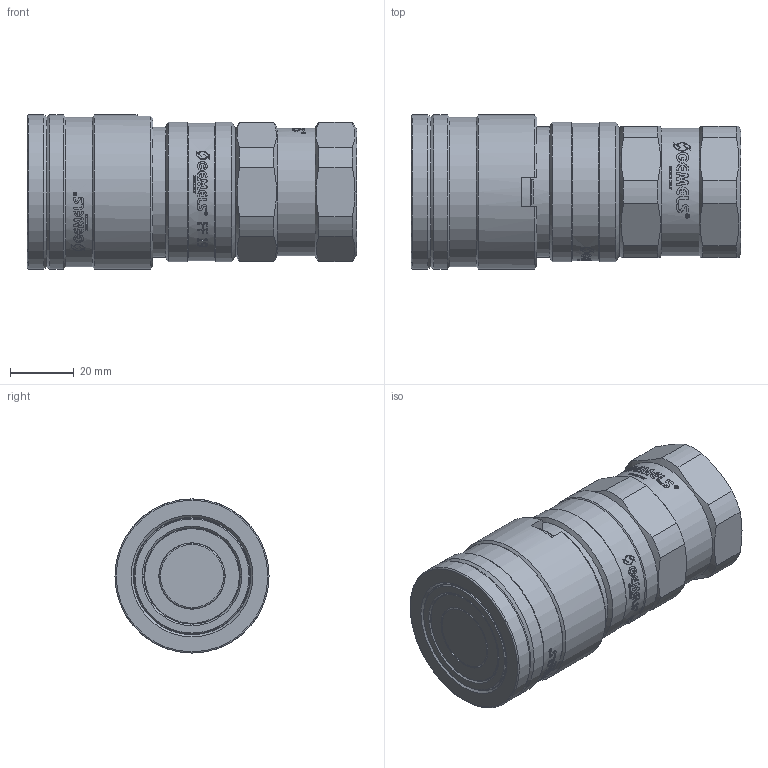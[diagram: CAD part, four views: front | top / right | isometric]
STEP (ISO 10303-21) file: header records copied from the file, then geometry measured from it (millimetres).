
FILE_DESCRIPTION(/* description */ (''),/* implementation_level */ '2;1');
FILE_NAME(/* name */ 'NC06G050000.stp',/* time_stamp */ '2026-03-18T10:01:25+01:00',/* author */ ('isabel.merisio'),/* organization */ (''),/* preprocessor_version */ 'ST-DEVELOPER v20',/* originating_system */ 'Autodesk Inventor 2024',/* authorisation */ '');
FILE_SCHEMA (('AUTOMOTIVE_DESIGN { 1 0 10303 214 3 1 1 }'));
Products named in the file (1): Parte8
Bounding box: 103 x 48.2 x 48.2 mm (x, y, z)
Volume: 142387.6 mm3; surface area: 21740.8 mm2
Topology: 1 solids, 1 shells, 1738 faces, 4897 edges, 3262 vertices
Faces by surface type: bspline 1166, plane 429, cylinder 122, cone 18, torus 3
Full cylindrical faces by diameter (mm): 20.55 x1, 20.75 x1, 30 x1, 30.1 x1, 30.291 x1, 31 x1, 36.3 x1, 36.7 x1, 38.45 x1, 40 x1, 40.9 x1, 43 x1, 43.6 x1, 43.7 x1, 46.7 x1, 48.2 x3
Entity records: 74857 total; most frequent: CARTESIAN_POINT 36241, ORIENTED_EDGE 9794, EDGE_CURVE 4897, DIRECTION 3931, VERTEX_POINT 3261, B_SPLINE_CURVE_WITH_KNOTS 2550, LINE 1849, VECTOR 1849
